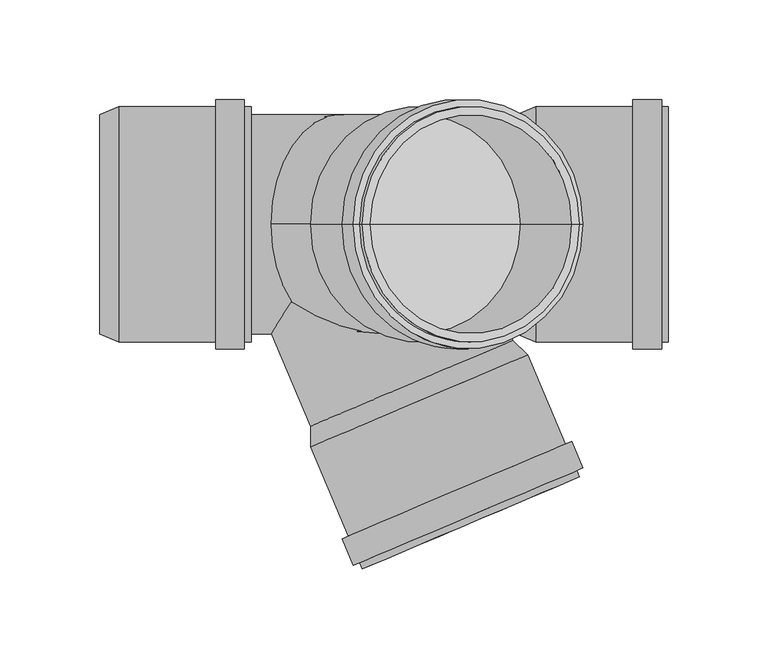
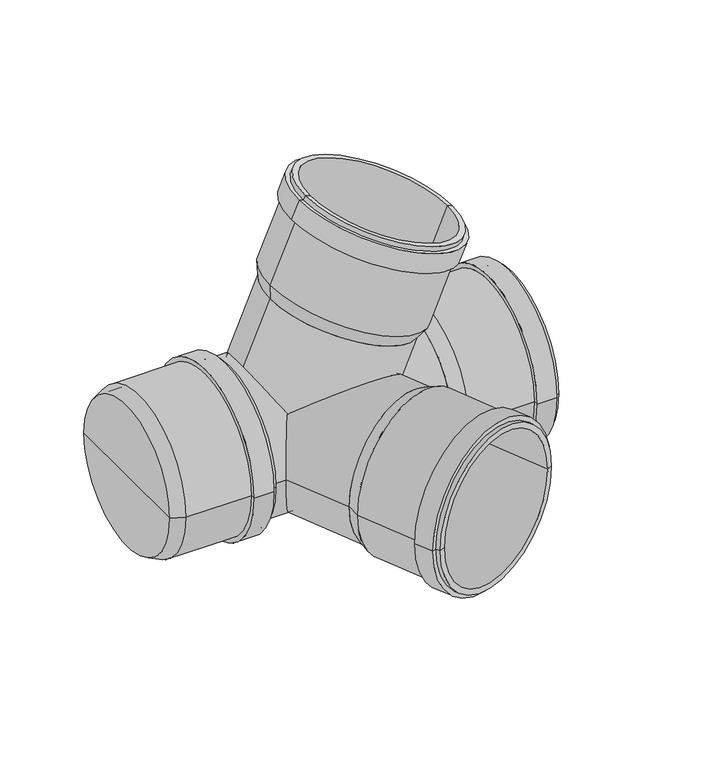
"""IFC4 building model written with IfcOpenShell, lengths in millimetres: pipe fitting geometry, pf_HTED : pf_HTED."""

from ifc_helpers import new_model, si_unit, point, frame, origin, origin_2d, place, context, project, spatial, polyline, circle_curve, trimmed, segment, composite_curve, outline, extrude, source, transform, mapped, element, save
from ifc_brep_helpers import plane_surface, cylinder_surface, revolved_surface, advanced_brep


def pipe_fitting_4f15dcb3(model_context):
    return source(origin(), model_context, "Body", "SolidModel", [
        advanced_brep(
        [(84.5432289, 0.0, 58.4096092), (-16.712305, 0.0, 101.3900333), (-16.7744292, 0.0, 111.7368271), (92.0292445, 0.0, 65.5524077), (33.915462, 0.0, 79.8998213), (118.0128646, 0.0, 126.7659804), (9.2091909, 0.0, 172.9503998), (12.9832608, 0.0, 171.3484022), (114.2387947, 0.0, 128.3679781), (116.6843787, 0.0, 123.6362639), (7.880705, 0.0, 169.8206833), (119.8140952, 0.0, 122.3077781), (4.7509885, 0.0, 171.1491692), (114.1484939, 0.0, 108.9604577), (-0.9146128, 0.0, 157.8018488), (111.0187774, 0.0, 110.2889436), (2.2151037, 0.0, 156.473363), (88.2551746, 0.0, 67.1544053), (-13.0003593, 0.0, 110.1348295), (37.6274077, 0.0, 88.6446174)],
        [
            (0, 1, circle_curve(frame((33.915462, 0.0, 79.8998213), z_axis=(0.3907311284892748, 0.0, 0.9205048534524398), x_axis=(-0.9205048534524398, 0.0, 0.3907311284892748)), 55.0)),
            (1, 2),
            (2, 3, circle_curve(frame((37.6274077, 0.0, 88.6446174), z_axis=(-0.3907311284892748, 0.0, -0.9205048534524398), x_axis=(-0.9205048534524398, 0.0, 0.3907311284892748)), 59.1)),
            (3, 0),
            (1, 0, circle_curve(frame((33.915462, 0.0, 79.8998213), z_axis=(0.3907311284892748, 0.0, 0.9205048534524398), x_axis=(-0.9205048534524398, 0.0, 0.3907311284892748)), 55.0)),
            (3, 2, circle_curve(frame((37.6274077, 0.0, 88.6446174), z_axis=(-0.3907311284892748, 0.0, -0.9205048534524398), x_axis=(-0.9205048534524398, 0.0, 0.3907311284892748)), 59.1)),
            (4, 1),
            (0, 4),
            (5, 6, circle_curve(frame((63.6110277, 0.0, 149.8581901), z_axis=(0.3907311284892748, 0.0, 0.9205048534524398), x_axis=(-0.9205048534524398, 0.0, 0.3907311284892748)), 59.1)),
            (6, 7),
            (7, 8, circle_curve(frame((63.6110277, 0.0, 149.8581901), z_axis=(-0.3907311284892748, 0.0, -0.9205048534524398), x_axis=(-0.9205048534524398, 0.0, 0.3907311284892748)), 55.0)),
            (8, 5),
            (6, 5, circle_curve(frame((63.6110277, 0.0, 149.8581901), z_axis=(0.3907311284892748, 0.0, 0.9205048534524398), x_axis=(-0.9205048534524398, 0.0, 0.3907311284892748)), 59.1)),
            (8, 7, circle_curve(frame((63.6110277, 0.0, 149.8581901), z_axis=(-0.3907311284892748, 0.0, -0.9205048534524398), x_axis=(-0.9205048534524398, 0.0, 0.3907311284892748)), 55.0)),
            (9, 10, circle_curve(frame((62.2825419, 0.0, 146.7284736), z_axis=(0.3907311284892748, 0.0, 0.9205048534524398), x_axis=(-0.9205048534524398, 0.0, 0.3907311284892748)), 59.1)),
            (10, 6),
            (5, 9),
            (10, 9, circle_curve(frame((62.2825419, 0.0, 146.7284736), z_axis=(0.3907311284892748, 0.0, 0.9205048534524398), x_axis=(-0.9205048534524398, 0.0, 0.3907311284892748)), 59.1)),
            (11, 12, circle_curve(frame((62.2825419, 0.0, 146.7284736), z_axis=(0.3907311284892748, 0.0, 0.9205048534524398), x_axis=(-0.9205048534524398, 0.0, 0.3907311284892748)), 62.5)),
            (12, 10),
            (9, 11),
            (12, 11, circle_curve(frame((62.2825419, 0.0, 146.7284736), z_axis=(0.3907311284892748, 0.0, 0.9205048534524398), x_axis=(-0.9205048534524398, 0.0, 0.3907311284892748)), 62.5)),
            (13, 14, circle_curve(frame((56.6169405, 0.0, 133.3811533), z_axis=(0.3907311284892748, 0.0, 0.9205048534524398), x_axis=(-0.9205048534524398, 0.0, 0.3907311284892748)), 62.5)),
            (14, 12),
            (11, 13),
            (14, 13, circle_curve(frame((56.6169405, 0.0, 133.3811533), z_axis=(0.3907311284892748, 0.0, 0.9205048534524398), x_axis=(-0.9205048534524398, 0.0, 0.3907311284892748)), 62.5)),
            (15, 16, circle_curve(frame((56.6169405, 0.0, 133.3811533), z_axis=(0.3907311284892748, 0.0, 0.9205048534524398), x_axis=(-0.9205048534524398, 0.0, 0.3907311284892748)), 59.1)),
            (16, 14),
            (13, 15),
            (16, 15, circle_curve(frame((56.6169405, 0.0, 133.3811533), z_axis=(0.3907311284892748, 0.0, 0.9205048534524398), x_axis=(-0.9205048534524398, 0.0, 0.3907311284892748)), 59.1)),
            (2, 16),
            (15, 3),
            (17, 18, circle_curve(frame((37.6274077, 0.0, 88.6446174), z_axis=(0.3907311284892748, 0.0, 0.9205048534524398), x_axis=(-0.9205048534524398, 0.0, 0.3907311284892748)), 55.0)),
            (18, 19),
            (19, 17),
            (18, 17, circle_curve(frame((37.6274077, 0.0, 88.6446174), z_axis=(0.3907311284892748, 0.0, 0.9205048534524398), x_axis=(-0.9205048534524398, 0.0, 0.3907311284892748)), 55.0)),
            (7, 18),
            (17, 8),
        ],
        [
            revolved_surface(polyline([(-16.7744292, 0.0, 111.7368271), (-16.712305, 0.0, 101.3900333)]), (33.915462, 0.0, 79.8998213), (-0.3907311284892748, 0.0, -0.9205048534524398)),
            plane_surface(frame((33.915462, 0.0, 79.8998213), z_axis=(-0.3907311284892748, 0.0, -0.9205048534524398), x_axis=(-0.9205048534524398, 0.0, 0.3907311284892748))),
            plane_surface(frame((63.6110277, 0.0, 149.8581901), z_axis=(0.3907311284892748, 0.0, 0.9205048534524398), x_axis=(-0.9205048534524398, 0.0, 0.3907311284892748))),
            cylinder_surface(frame((33.915462, 0.0, 79.8998213), z_axis=(-0.3907311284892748, 0.0, -0.9205048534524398), x_axis=(-0.9205048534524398, 0.0, 0.3907311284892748)), 59.1),
            plane_surface(frame((62.2825419, 0.0, 146.7284736), z_axis=(0.3907311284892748, 0.0, 0.9205048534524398), x_axis=(-0.9205048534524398, 0.0, 0.3907311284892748))),
            cylinder_surface(frame((33.915462, 0.0, 79.8998213), z_axis=(-0.3907311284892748, 0.0, -0.9205048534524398), x_axis=(-0.9205048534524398, 0.0, 0.3907311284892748)), 62.5),
            plane_surface(frame((56.6169405, 0.0, 133.3811533), z_axis=(-0.3907311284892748, 0.0, -0.9205048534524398), x_axis=(-0.9205048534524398, 0.0, 0.3907311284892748))),
            plane_surface(frame((37.6274077, 0.0, 88.6446174), z_axis=(0.3907311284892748, 0.0, 0.9205048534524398), x_axis=(-0.9205048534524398, 0.0, 0.3907311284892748))),
            revolved_surface(polyline([(-13.000359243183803, 0.0, 110.13482941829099), (12.983260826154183, 0.0, 171.34840223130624)]), (33.915462, 0.0, 79.8998213), (-0.3907311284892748, 0.0, -0.9205048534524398)),
        ],
        [
            (0, [[1, 2, 3, 4]]),
            (0, [[5, -4, 6, -2]]),
            (1, [[7, -1, 8]]),
            (1, [[-8, -5, -7]]),
            (2, [[9, 10, 11, 12]]),
            (2, [[13, -12, 14, -10]]),
            (3, [[15, 16, -9, 17]]),
            (3, [[18, -17, -13, -16]]),
            (4, [[19, 20, -15, 21]]),
            (4, [[22, -21, -18, -20]]),
            (5, [[23, 24, -19, 25]]),
            (5, [[26, -25, -22, -24]]),
            (6, [[27, 28, -23, 29]]),
            (6, [[30, -29, -26, -28]]),
            (3, [[-3, 31, -27, 32]]),
            (3, [[-6, -32, -30, -31]]),
            (7, [[33, 34, 35]]),
            (7, [[36, -35, -34]]),
            (8, [[-11, 37, -33, 38]]),
            (8, [[-14, -38, -36, -37]]),
        ],
    ),
        advanced_brep(
        [(-16.712305, -101.3900333, 0.0), (84.5432289, -58.4096092, 0.0), (92.0292445, -65.5524077, 0.0), (-16.7744292, -111.7368271, 0.0), (33.915462, -79.8998213, 0.0), (9.2091909, -172.9503998, 0.0), (118.0128646, -126.7659804, 0.0), (114.2387947, -128.3679781, 0.0), (12.9832608, -171.3484022, 0.0), (7.880705, -169.8206833, 0.0), (116.6843787, -123.6362639, 0.0), (4.7509885, -171.1491692, 0.0), (119.8140952, -122.3077781, 0.0), (-0.9146128, -157.8018488, 0.0), (114.1484939, -108.9604577, 0.0), (2.2151037, -156.473363, 0.0), (111.0187774, -110.2889436, 0.0), (-13.0003593, -110.1348295, 0.0), (88.2551746, -67.1544053, 0.0), (37.6274077, -88.6446174, 0.0)],
        [
            (0, 1, circle_curve(frame((33.915462, -79.8998213, 0.0), z_axis=(0.3907311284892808, -0.9205048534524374, 0.0), x_axis=(0.9205048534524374, 0.3907311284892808, 0.0)), 55.0)),
            (1, 2),
            (2, 3, circle_curve(frame((37.6274077, -88.6446174, 0.0), z_axis=(-0.3907311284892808, 0.9205048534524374, 0.0), x_axis=(0.9205048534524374, 0.3907311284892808, 0.0)), 59.1)),
            (3, 0),
            (1, 0, circle_curve(frame((33.915462, -79.8998213, 0.0), z_axis=(0.3907311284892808, -0.9205048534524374, 0.0), x_axis=(0.9205048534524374, 0.3907311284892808, 0.0)), 55.0)),
            (3, 2, circle_curve(frame((37.6274077, -88.6446174, 0.0), z_axis=(-0.3907311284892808, 0.9205048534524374, 0.0), x_axis=(0.9205048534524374, 0.3907311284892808, 0.0)), 59.1)),
            (4, 1),
            (0, 4),
            (5, 6, circle_curve(frame((63.6110277, -149.8581901, 0.0), z_axis=(0.3907311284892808, -0.9205048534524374, 0.0), x_axis=(0.9205048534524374, 0.3907311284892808, 0.0)), 59.1)),
            (6, 7),
            (7, 8, circle_curve(frame((63.6110277, -149.8581901, 0.0), z_axis=(-0.3907311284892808, 0.9205048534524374, 0.0), x_axis=(0.9205048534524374, 0.3907311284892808, 0.0)), 55.0)),
            (8, 5),
            (6, 5, circle_curve(frame((63.6110277, -149.8581901, 0.0), z_axis=(0.3907311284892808, -0.9205048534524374, 0.0), x_axis=(0.9205048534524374, 0.3907311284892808, 0.0)), 59.1)),
            (8, 7, circle_curve(frame((63.6110277, -149.8581901, 0.0), z_axis=(-0.3907311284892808, 0.9205048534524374, 0.0), x_axis=(0.9205048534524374, 0.3907311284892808, 0.0)), 55.0)),
            (9, 10, circle_curve(frame((62.2825419, -146.7284736, 0.0), z_axis=(0.3907311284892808, -0.9205048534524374, 0.0), x_axis=(0.9205048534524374, 0.3907311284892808, 0.0)), 59.1)),
            (10, 6),
            (5, 9),
            (10, 9, circle_curve(frame((62.2825419, -146.7284736, 0.0), z_axis=(0.3907311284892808, -0.9205048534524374, 0.0), x_axis=(0.9205048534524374, 0.3907311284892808, 0.0)), 59.1)),
            (11, 12, circle_curve(frame((62.2825419, -146.7284736, 0.0), z_axis=(0.3907311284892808, -0.9205048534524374, 0.0), x_axis=(0.9205048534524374, 0.3907311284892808, 0.0)), 62.5)),
            (12, 10),
            (9, 11),
            (12, 11, circle_curve(frame((62.2825419, -146.7284736, 0.0), z_axis=(0.3907311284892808, -0.9205048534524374, 0.0), x_axis=(0.9205048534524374, 0.3907311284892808, 0.0)), 62.5)),
            (13, 14, circle_curve(frame((56.6169405, -133.3811533, 0.0), z_axis=(0.3907311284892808, -0.9205048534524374, 0.0), x_axis=(0.9205048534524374, 0.3907311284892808, 0.0)), 62.5)),
            (14, 12),
            (11, 13),
            (14, 13, circle_curve(frame((56.6169405, -133.3811533, 0.0), z_axis=(0.3907311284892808, -0.9205048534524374, 0.0), x_axis=(0.9205048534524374, 0.3907311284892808, 0.0)), 62.5)),
            (15, 16, circle_curve(frame((56.6169405, -133.3811533, 0.0), z_axis=(0.3907311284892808, -0.9205048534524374, 0.0), x_axis=(0.9205048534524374, 0.3907311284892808, 0.0)), 59.1)),
            (16, 14),
            (13, 15),
            (16, 15, circle_curve(frame((56.6169405, -133.3811533, 0.0), z_axis=(0.3907311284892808, -0.9205048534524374, 0.0), x_axis=(0.9205048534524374, 0.3907311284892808, 0.0)), 59.1)),
            (2, 16),
            (15, 3),
            (17, 18, circle_curve(frame((37.6274077, -88.6446174, 0.0), z_axis=(0.3907311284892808, -0.9205048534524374, 0.0), x_axis=(0.9205048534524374, 0.3907311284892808, 0.0)), 55.0)),
            (18, 19),
            (19, 17),
            (18, 17, circle_curve(frame((37.6274077, -88.6446174, 0.0), z_axis=(0.3907311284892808, -0.9205048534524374, 0.0), x_axis=(0.9205048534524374, 0.3907311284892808, 0.0)), 55.0)),
            (7, 18),
            (17, 8),
        ],
        [
            revolved_surface(polyline([(92.0292445, -65.5524077, 0.0), (84.5432289, -58.4096092, 0.0)]), (33.915462, -79.8998213, 0.0), (-0.3907311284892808, 0.9205048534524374, 0.0)),
            plane_surface(frame((33.915462, -79.8998213, 0.0), z_axis=(-0.3907311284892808, 0.9205048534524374, 0.0), x_axis=(0.9205048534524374, 0.3907311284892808, 0.0))),
            plane_surface(frame((63.6110277, -149.8581901, 0.0), z_axis=(0.3907311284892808, -0.9205048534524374, 0.0), x_axis=(0.9205048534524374, 0.3907311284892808, 0.0))),
            cylinder_surface(frame((33.915462, -79.8998213, 0.0), z_axis=(-0.3907311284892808, 0.9205048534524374, 0.0), x_axis=(0.9205048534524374, 0.3907311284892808, 0.0)), 59.1),
            plane_surface(frame((62.2825419, -146.7284736, 0.0), z_axis=(0.3907311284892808, -0.9205048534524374, 0.0), x_axis=(0.9205048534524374, 0.3907311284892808, 0.0))),
            cylinder_surface(frame((33.915462, -79.8998213, 0.0), z_axis=(-0.3907311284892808, 0.9205048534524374, 0.0), x_axis=(0.9205048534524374, 0.3907311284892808, 0.0)), 62.5),
            plane_surface(frame((56.6169405, -133.3811533, 0.0), z_axis=(-0.3907311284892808, 0.9205048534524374, 0.0), x_axis=(0.9205048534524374, 0.3907311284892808, 0.0))),
            plane_surface(frame((37.6274077, -88.6446174, 0.0), z_axis=(0.3907311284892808, -0.9205048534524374, 0.0), x_axis=(0.9205048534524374, 0.3907311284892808, 0.0))),
            revolved_surface(polyline([(88.25517463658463, -67.15440528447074, 0.0), (114.23879470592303, -128.36797809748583, 0.0)]), (33.915462, -79.8998213, 0.0), (-0.3907311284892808, 0.9205048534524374, 0.0)),
        ],
        [
            (0, [[1, 2, 3, 4]]),
            (0, [[5, -4, 6, -2]]),
            (1, [[7, -1, 8]]),
            (1, [[-8, -5, -7]]),
            (2, [[9, 10, 11, 12]]),
            (2, [[13, -12, 14, -10]]),
            (3, [[15, 16, -9, 17]]),
            (3, [[18, -17, -13, -16]]),
            (4, [[19, 20, -15, 21]]),
            (4, [[22, -21, -18, -20]]),
            (5, [[23, 24, -19, 25]]),
            (5, [[26, -25, -22, -24]]),
            (6, [[27, 28, -23, 29]]),
            (6, [[30, -29, -26, -28]]),
            (3, [[-3, 31, -27, 32]]),
            (3, [[-6, -32, -30, -31]]),
            (7, [[33, 34, 35]]),
            (7, [[36, -35, -34]]),
            (8, [[-11, 37, -33, 38]]),
            (8, [[-14, -38, -36, -37]]),
        ],
    ),
        advanced_brep(
        [(86.6, -55.0, 0.0), (86.6, 55.0, 0.0), (96.1, 59.1, 0.0), (96.1, -59.1, 0.0), (86.6, 0.0, 0.0), (162.6, -59.1, 0.0), (162.6, 59.1, 0.0), (162.6, 55.0, 0.0), (162.6, -55.0, 0.0), (159.2, -59.1, 0.0), (159.2, 59.1, 0.0), (159.2, -62.5, 0.0), (159.2, 62.5, 0.0), (144.7, -62.5, 0.0), (144.7, 62.5, 0.0), (144.7, -59.1, 0.0), (144.7, 59.1, 0.0), (96.1, -55.0, 0.0), (96.1, 55.0, 0.0), (96.1, 0.0, 0.0)],
        [
            (0, 1, circle_curve(frame((86.6, 0.0, 0.0), z_axis=(1.0, 0.0, 0.0), x_axis=(0.0, 1.0, 0.0)), 55.0)),
            (1, 2),
            (2, 3, circle_curve(frame((96.1, 0.0, 0.0), z_axis=(-1.0, 0.0, 0.0), x_axis=(0.0, 1.0, 0.0)), 59.1)),
            (3, 0),
            (1, 0, circle_curve(frame((86.6, 0.0, 0.0), z_axis=(1.0, 0.0, 0.0), x_axis=(0.0, 1.0, 0.0)), 55.0)),
            (3, 2, circle_curve(frame((96.1, 0.0, 0.0), z_axis=(-1.0, 0.0, 0.0), x_axis=(0.0, 1.0, 0.0)), 59.1)),
            (4, 1),
            (0, 4),
            (5, 6, circle_curve(frame((162.6, 0.0, 0.0), z_axis=(1.0, 0.0, 0.0), x_axis=(0.0, 1.0, 0.0)), 59.1)),
            (6, 7),
            (7, 8, circle_curve(frame((162.6, 0.0, 0.0), z_axis=(-1.0, 0.0, 0.0), x_axis=(0.0, 1.0, 0.0)), 55.0)),
            (8, 5),
            (6, 5, circle_curve(frame((162.6, 0.0, 0.0), z_axis=(1.0, 0.0, 0.0), x_axis=(0.0, 1.0, 0.0)), 59.1)),
            (8, 7, circle_curve(frame((162.6, 0.0, 0.0), z_axis=(-1.0, 0.0, 0.0), x_axis=(0.0, 1.0, 0.0)), 55.0)),
            (9, 10, circle_curve(frame((159.2, 0.0, 0.0), z_axis=(1.0, 0.0, 0.0), x_axis=(0.0, 1.0, 0.0)), 59.1)),
            (10, 6),
            (5, 9),
            (10, 9, circle_curve(frame((159.2, 0.0, 0.0), z_axis=(1.0, 0.0, 0.0), x_axis=(0.0, 1.0, 0.0)), 59.1)),
            (11, 12, circle_curve(frame((159.2, 0.0, 0.0), z_axis=(1.0, 0.0, 0.0), x_axis=(0.0, 1.0, 0.0)), 62.5)),
            (12, 10),
            (9, 11),
            (12, 11, circle_curve(frame((159.2, 0.0, 0.0), z_axis=(1.0, 0.0, 0.0), x_axis=(0.0, 1.0, 0.0)), 62.5)),
            (13, 14, circle_curve(frame((144.7, 0.0, 0.0), z_axis=(1.0, 0.0, 0.0), x_axis=(0.0, 1.0, 0.0)), 62.5)),
            (14, 12),
            (11, 13),
            (14, 13, circle_curve(frame((144.7, 0.0, 0.0), z_axis=(1.0, 0.0, 0.0), x_axis=(0.0, 1.0, 0.0)), 62.5)),
            (15, 16, circle_curve(frame((144.7, 0.0, 0.0), z_axis=(1.0, 0.0, 0.0), x_axis=(0.0, 1.0, 0.0)), 59.1)),
            (16, 14),
            (13, 15),
            (16, 15, circle_curve(frame((144.7, 0.0, 0.0), z_axis=(1.0, 0.0, 0.0), x_axis=(0.0, 1.0, 0.0)), 59.1)),
            (2, 16),
            (15, 3),
            (17, 18, circle_curve(frame((96.1, 0.0, 0.0), z_axis=(1.0, 0.0, 0.0), x_axis=(0.0, 1.0, 0.0)), 55.0)),
            (18, 19),
            (19, 17),
            (18, 17, circle_curve(frame((96.1, 0.0, 0.0), z_axis=(1.0, 0.0, 0.0), x_axis=(0.0, 1.0, 0.0)), 55.0)),
            (7, 18),
            (17, 8),
        ],
        [
            revolved_surface(polyline([(96.1, 59.1, 0.0), (86.6, 55.0, 0.0)]), (86.6, 0.0, 0.0), (-1.0, 0.0, 0.0)),
            plane_surface(frame((86.6, 0.0, 0.0), z_axis=(-1.0, 0.0, 0.0), x_axis=(0.0, 1.0, 0.0))),
            plane_surface(frame((162.6, 0.0, 0.0), z_axis=(1.0, 0.0, 0.0), x_axis=(0.0, 1.0, 0.0))),
            cylinder_surface(frame((86.6, 0.0, 0.0), z_axis=(-1.0, 0.0, 0.0), x_axis=(0.0, 1.0, 0.0)), 59.1),
            plane_surface(frame((159.2, 0.0, 0.0), z_axis=(1.0, 0.0, 0.0), x_axis=(0.0, 1.0, 0.0))),
            cylinder_surface(frame((86.6, 0.0, 0.0), z_axis=(-1.0, 0.0, 0.0), x_axis=(0.0, 1.0, 0.0)), 62.5),
            plane_surface(frame((144.7, 0.0, 0.0), z_axis=(-1.0, 0.0, 0.0), x_axis=(0.0, 1.0, 0.0))),
            plane_surface(frame((96.1, 0.0, 0.0), z_axis=(1.0, 0.0, 0.0), x_axis=(0.0, 1.0, 0.0))),
            revolved_surface(polyline([(96.1, 55.0, 0.0), (162.6, 55.0, 0.0)]), (86.6, 0.0, 0.0), (-1.0, 0.0, 0.0)),
        ],
        [
            (0, [[1, 2, 3, 4]]),
            (0, [[5, -4, 6, -2]]),
            (1, [[7, -1, 8]]),
            (1, [[-8, -5, -7]]),
            (2, [[9, 10, 11, 12]]),
            (2, [[13, -12, 14, -10]]),
            (3, [[15, 16, -9, 17]]),
            (3, [[18, -17, -13, -16]]),
            (4, [[19, 20, -15, 21]]),
            (4, [[22, -21, -18, -20]]),
            (5, [[23, 24, -19, 25]]),
            (5, [[26, -25, -22, -24]]),
            (6, [[27, 28, -23, 29]]),
            (6, [[30, -29, -26, -28]]),
            (3, [[-3, 31, -27, 32]]),
            (3, [[-6, -32, -30, -31]]),
            (7, [[33, 34, 35]]),
            (7, [[36, -35, -34]]),
            (8, [[-11, 37, -33, 38]]),
            (8, [[-14, -38, -36, -37]]),
        ],
    ),
        advanced_brep(
        [(-122.5, -55.0, 0.0), (-122.5, 55.0, 0.0), (-113.0, 59.1, 0.0), (-113.0, -59.1, 0.0), (-122.5, 0.0, 0.0), (-46.5, -59.1, 0.0), (-46.5, 59.1, 0.0), (-46.5, 55.0, 0.0), (-46.5, -55.0, 0.0), (-49.9, -59.1, 0.0), (-49.9, 59.1, 0.0), (-49.9, -62.5, 0.0), (-49.9, 62.5, 0.0), (-64.4, -62.5, 0.0), (-64.4, 62.5, 0.0), (-64.4, -59.1, 0.0), (-64.4, 59.1, 0.0), (-113.0, -55.0, 0.0), (-113.0, 55.0, 0.0), (-113.0, 0.0, 0.0)],
        [
            (0, 1, circle_curve(frame((-122.5, 0.0, 0.0), z_axis=(1.0, 0.0, 0.0), x_axis=(0.0, 1.0, 0.0)), 55.0)),
            (1, 2),
            (2, 3, circle_curve(frame((-113.0, 0.0, 0.0), z_axis=(-1.0, 0.0, 0.0), x_axis=(0.0, 1.0, 0.0)), 59.1)),
            (3, 0),
            (1, 0, circle_curve(frame((-122.5, 0.0, 0.0), z_axis=(1.0, 0.0, 0.0), x_axis=(0.0, 1.0, 0.0)), 55.0)),
            (3, 2, circle_curve(frame((-113.0, 0.0, 0.0), z_axis=(-1.0, 0.0, 0.0), x_axis=(0.0, 1.0, 0.0)), 59.1)),
            (4, 1),
            (0, 4),
            (5, 6, circle_curve(frame((-46.5, 0.0, 0.0), z_axis=(1.0, 0.0, 0.0), x_axis=(0.0, 1.0, 0.0)), 59.1)),
            (6, 7),
            (7, 8, circle_curve(frame((-46.5, 0.0, 0.0), z_axis=(-1.0, 0.0, 0.0), x_axis=(0.0, 1.0, 0.0)), 55.0)),
            (8, 5),
            (6, 5, circle_curve(frame((-46.5, 0.0, 0.0), z_axis=(1.0, 0.0, 0.0), x_axis=(0.0, 1.0, 0.0)), 59.1)),
            (8, 7, circle_curve(frame((-46.5, 0.0, 0.0), z_axis=(-1.0, 0.0, 0.0), x_axis=(0.0, 1.0, 0.0)), 55.0)),
            (9, 10, circle_curve(frame((-49.9, 0.0, 0.0), z_axis=(1.0, 0.0, 0.0), x_axis=(0.0, 1.0, 0.0)), 59.1)),
            (10, 6),
            (5, 9),
            (10, 9, circle_curve(frame((-49.9, 0.0, 0.0), z_axis=(1.0, 0.0, 0.0), x_axis=(0.0, 1.0, 0.0)), 59.1)),
            (11, 12, circle_curve(frame((-49.9, 0.0, 0.0), z_axis=(1.0, 0.0, 0.0), x_axis=(0.0, 1.0, 0.0)), 62.5)),
            (12, 10),
            (9, 11),
            (12, 11, circle_curve(frame((-49.9, 0.0, 0.0), z_axis=(1.0, 0.0, 0.0), x_axis=(0.0, 1.0, 0.0)), 62.5)),
            (13, 14, circle_curve(frame((-64.4, 0.0, 0.0), z_axis=(1.0, 0.0, 0.0), x_axis=(0.0, 1.0, 0.0)), 62.5)),
            (14, 12),
            (11, 13),
            (14, 13, circle_curve(frame((-64.4, 0.0, 0.0), z_axis=(1.0, 0.0, 0.0), x_axis=(0.0, 1.0, 0.0)), 62.5)),
            (15, 16, circle_curve(frame((-64.4, 0.0, 0.0), z_axis=(1.0, 0.0, 0.0), x_axis=(0.0, 1.0, 0.0)), 59.1)),
            (16, 14),
            (13, 15),
            (16, 15, circle_curve(frame((-64.4, 0.0, 0.0), z_axis=(1.0, 0.0, 0.0), x_axis=(0.0, 1.0, 0.0)), 59.1)),
            (2, 16),
            (15, 3),
            (17, 18, circle_curve(frame((-113.0, 0.0, 0.0), z_axis=(1.0, 0.0, 0.0), x_axis=(0.0, 1.0, 0.0)), 55.0)),
            (18, 19),
            (19, 17),
            (18, 17, circle_curve(frame((-113.0, 0.0, 0.0), z_axis=(1.0, 0.0, 0.0), x_axis=(0.0, 1.0, 0.0)), 55.0)),
            (7, 18),
            (17, 8),
        ],
        [
            revolved_surface(polyline([(-113.0, 59.1, 0.0), (-122.5, 55.0, 0.0)]), (-122.5, 0.0, 0.0), (-1.0, 0.0, 0.0)),
            plane_surface(frame((-122.5, 0.0, 0.0), z_axis=(-1.0, 0.0, 0.0), x_axis=(0.0, 1.0, 0.0))),
            plane_surface(frame((-46.5, 0.0, 0.0), z_axis=(1.0, 0.0, 0.0), x_axis=(0.0, 1.0, 0.0))),
            cylinder_surface(frame((-122.5, 0.0, 0.0), z_axis=(-1.0, 0.0, 0.0), x_axis=(0.0, 1.0, 0.0)), 59.1),
            plane_surface(frame((-49.9, 0.0, 0.0), z_axis=(1.0, 0.0, 0.0), x_axis=(0.0, 1.0, 0.0))),
            cylinder_surface(frame((-122.5, 0.0, 0.0), z_axis=(-1.0, 0.0, 0.0), x_axis=(0.0, 1.0, 0.0)), 62.5),
            plane_surface(frame((-64.4, 0.0, 0.0), z_axis=(-1.0, 0.0, 0.0), x_axis=(0.0, 1.0, 0.0))),
            plane_surface(frame((-113.0, 0.0, 0.0), z_axis=(1.0, 0.0, 0.0), x_axis=(0.0, 1.0, 0.0))),
            revolved_surface(polyline([(-113.0, 55.0, 0.0), (-46.5, 55.0, 0.0)]), (-122.5, 0.0, 0.0), (-1.0, 0.0, 0.0)),
        ],
        [
            (0, [[1, 2, 3, 4]]),
            (0, [[5, -4, 6, -2]]),
            (1, [[7, -1, 8]]),
            (1, [[-8, -5, -7]]),
            (2, [[9, 10, 11, 12]]),
            (2, [[13, -12, 14, -10]]),
            (3, [[15, 16, -9, 17]]),
            (3, [[18, -17, -13, -16]]),
            (4, [[19, 20, -15, 21]]),
            (4, [[22, -21, -18, -20]]),
            (5, [[23, 24, -19, 25]]),
            (5, [[26, -25, -22, -24]]),
            (6, [[27, 28, -23, 29]]),
            (6, [[30, -29, -26, -28]]),
            (3, [[-3, 31, -27, 32]]),
            (3, [[-6, -32, -30, -31]]),
            (7, [[33, 34, 35]]),
            (7, [[36, -35, -34]]),
            (8, [[-11, 37, -33, 38]]),
            (8, [[-14, -38, -36, -37]]),
        ],
    ),
        extrude(outline(composite_curve([segment(trimmed(circle_curve(origin_2d(), 55.0), [point((0.0, 55.0))], [point((0.0, -55.0))], False, "CARTESIAN"), True, "CONTINUOUS"), segment(trimmed(circle_curve(origin_2d(), 55.0), [point((0.0, -55.0))], [point((0.0, 55.0))], False, "CARTESIAN"), True, "CONTINUOUS")], self_intersect=False)), frame((0.0, 0.0, 0.0), z_axis=(0.3907311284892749, 0.0, 0.9205048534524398), x_axis=(0.0, -1.0, 0.0)), (0.0, 0.0, 1.0), 86.8),
        extrude(outline(composite_curve([segment(trimmed(circle_curve(origin_2d(), 55.0), [point((0.0, -55.0))], [point((0.0, 55.0))], False, "CARTESIAN"), True, "CONTINUOUS"), segment(trimmed(circle_curve(origin_2d(), 55.0), [point((0.0, 55.0))], [point((0.0, -55.0))], False, "CARTESIAN"), True, "CONTINUOUS")], self_intersect=False)), frame((33.915462, -79.8998213, 0.0), z_axis=(-0.39073112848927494, 0.9205048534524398, 0.0), x_axis=(0.0, 0.0, 1.0)), (0.0, 0.0, 1.0), 86.8),
        extrude(outline(composite_curve([segment(trimmed(circle_curve(origin_2d(), 55.0), [point((-55.0, 0.0))], [point((55.0, 0.0))], False, "CARTESIAN"), True, "CONTINUOUS"), segment(trimmed(circle_curve(origin_2d(), 55.0), [point((55.0, 0.0))], [point((-55.0, 0.0))], False, "CARTESIAN"), True, "CONTINUOUS")], self_intersect=False)), frame((-113.0, 0.0, 0.0), z_axis=(1.0, 0.0, 0.0), x_axis=(0.0, 1.0, 0.0)), (0.0, 0.0, 1.0), 199.6),
    ])


if __name__ == "__main__":
    model = new_model("IFC4")
    model_context = context("Model", 3, world=origin())
    ifc_project = project(units=[si_unit("LENGTHUNIT", "METRE", prefix="MILLI")], contexts=[model_context])
    site = spatial("IfcSite", under=ifc_project)
    building = spatial("IfcBuilding", under=site)
    placement = place(None, origin())
    pipe_fitting_shape = pipe_fitting_4f15dcb3(model_context)
    element("IfcPipeFitting", 1, ObjectType="pf_HTED : pf_HTED", at=placement, inside=building, context=model_context, shape_type="MappedRepresentation", body=[
        mapped(pipe_fitting_shape, transform((0.0, 0.0, 0.0), x_axis=(1.0, 0.0, 0.0), y_axis=(0.0, 1.0, 0.0), z_axis=(0.0, 0.0, 1.0))),
    ])
    save(model, "model.ifc")
